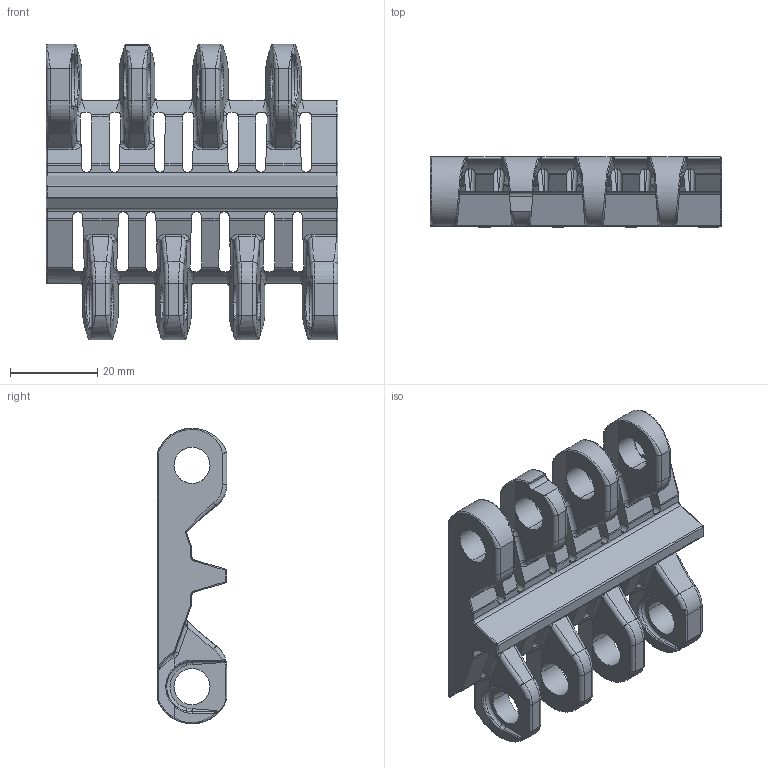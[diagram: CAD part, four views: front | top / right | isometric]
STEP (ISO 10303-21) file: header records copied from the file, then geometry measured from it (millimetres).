
FILE_DESCRIPTION((''),'2;1');
FILE_NAME('UNI_MPB_20_K275','2009-08-28T',('jas'),(''),'PRO/ENGINEER BY PARAMETRIC TECHNOLOGY CORPORATION, 2008490','PRO/ENGINEER BY PARAMETRIC TECHNOLOGY CORPORATION, 2008490','');
FILE_SCHEMA(('AUTOMOTIVE_DESIGN { 1 0 10303 214 1 1 1 1 }'));
Products named in the file (1): UNI_MPB_20_K275
Bounding box: 67 x 16 x 67.8 mm (x, y, z)
Volume: 25938.5 mm3; surface area: 15058.6 mm2
Topology: 1 solids, 1 shells, 928 faces, 2534 edges, 1596 vertices
Faces by surface type: cylinder 306, plane 294, bspline 267, torus 59, sphere 2
Entity records: 77052 total; most frequent: CARTESIAN_POINT 56517, ORIENTED_EDGE 5064, DIRECTION 3135, EDGE_CURVE 2532, VERTEX_POINT 1596, VECTOR 1087, LINE 1087, B_SPLINE_CURVE_WITH_KNOTS 1082
